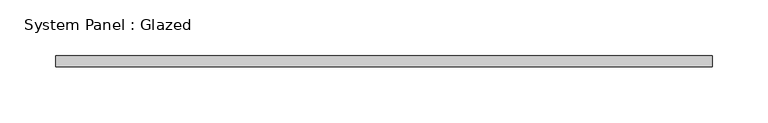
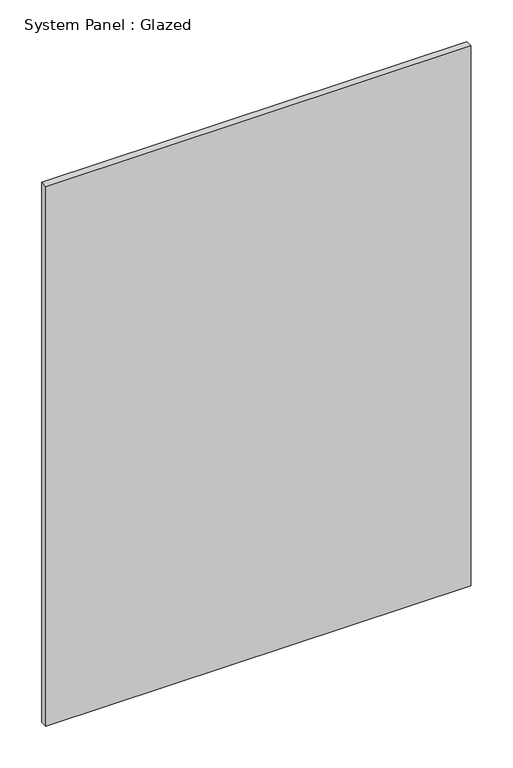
"""IFC4 building model written with IfcOpenShell, lengths in millimetres: plate geometry, System Panel : Glazed."""

from ifc_helpers import new_model, si_unit, origin, origin_with_axes, place, context, project, spatial, polyline, outline, extrude, source, transform, mapped, element, save


def system_panel_glazed_f99e615f(model_context):
    return source(origin(), model_context, "Body", "SweptSolid", [
        extrude(outline(polyline([(294.2172721, -5.0), (-294.2172721, -5.0), (-294.2172721, 5.0), (294.2172721, 5.0), (294.2172721, -5.0)])), origin_with_axes(), (0.0, 0.0, 1.0), 790.0),
    ])


if __name__ == "__main__":
    model = new_model("IFC4")
    model_context = context("Model", 3, world=origin())
    ifc_project = project(units=[si_unit("LENGTHUNIT", "METRE", prefix="MILLI")], contexts=[model_context])
    site = spatial("IfcSite", under=ifc_project)
    building = spatial("IfcBuilding", under=site)
    placement = place(None, origin())
    system_panel_glazed_shape = system_panel_glazed_f99e615f(model_context)
    element("IfcPlate", 1, ObjectType="System Panel : Glazed", at=placement, inside=building, context=model_context, shape_type="MappedRepresentation", body=[
        mapped(system_panel_glazed_shape, transform((0.0, 0.0, 0.0), x_axis=(1.0, 0.0, 0.0), y_axis=(0.0, 1.0, 0.0), z_axis=(0.0, 0.0, 1.0))),
    ])
    save(model, "model.ifc")
